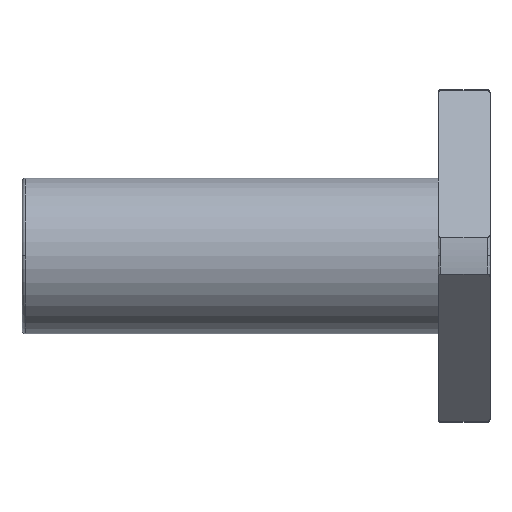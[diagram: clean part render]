
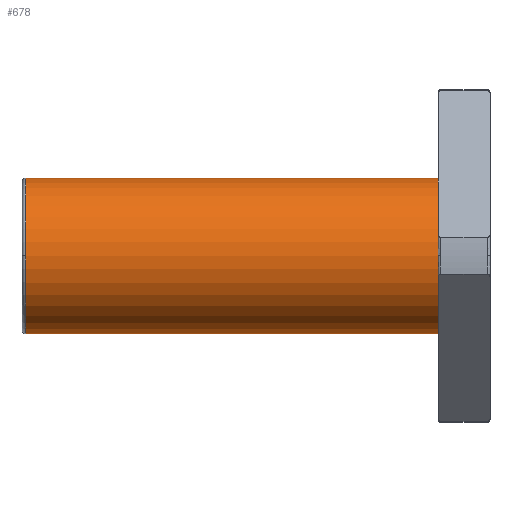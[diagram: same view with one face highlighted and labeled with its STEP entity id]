
A CAD part, top view. The second image highlights one B-rep face of the part: STEP entity #678.
In plain terms, the highlighted cylindrical face has radius 7.5 mm (diameter 15 mm), a partial arc.
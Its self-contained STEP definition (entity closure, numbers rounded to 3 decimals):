
#663 = PLANE('',#664);
#664 = AXIS2_PLACEMENT_3D('',#665,#666,#667);
#665 = CARTESIAN_POINT('',(-5.,11.625,0.));
#666 = DIRECTION('',(-1.,0.,0.));
#667 = DIRECTION('',(0.,-1.,0.));
#678 = ADVANCED_FACE('',(#679),#693,.T.);
#679 = FACE_BOUND('',#680,.T.);
#680 = EDGE_LOOP('',(#681,#716,#745,#774,#797));
#681 = ORIENTED_EDGE('',*,*,#682,.F.);
#682 = EDGE_CURVE('',#683,#685,#687,.T.);
#683 = VERTEX_POINT('',#684);
#684 = CARTESIAN_POINT('',(-44.65,7.5,0.));
#685 = VERTEX_POINT('',#686);
#686 = CARTESIAN_POINT('',(-5.,7.5,0.));
#687 = SURFACE_CURVE('',#688,(#692,#704),.PCURVE_S1.);
#688 = LINE('',#689,#690);
#689 = CARTESIAN_POINT('',(-24.825,7.5,0.));
#690 = VECTOR('',#691,1.);
#691 = DIRECTION('',(1.,0.,0.));
#692 = PCURVE('',#693,#698);
#693 = CYLINDRICAL_SURFACE('',#694,7.5);
#694 = AXIS2_PLACEMENT_3D('',#695,#696,#697);
#695 = CARTESIAN_POINT('',(-24.825,0.,0.));
#696 = DIRECTION('',(1.,0.,0.));
#697 = DIRECTION('',(-0.,1.,0.));
#698 = DEFINITIONAL_REPRESENTATION('',(#699),#703);
#699 = LINE('',#700,#701);
#700 = CARTESIAN_POINT('',(0.,0.));
#701 = VECTOR('',#702,1.);
#702 = DIRECTION('',(0.,1.));
#703 = ( GEOMETRIC_REPRESENTATION_CONTEXT(2) 
PARAMETRIC_REPRESENTATION_CONTEXT() REPRESENTATION_CONTEXT('2D SPACE',''
  ) );
#704 = PCURVE('',#705,#710);
#705 = CYLINDRICAL_SURFACE('',#706,7.5);
#706 = AXIS2_PLACEMENT_3D('',#707,#708,#709);
#707 = CARTESIAN_POINT('',(-24.825,0.,0.));
#708 = DIRECTION('',(1.,0.,0.));
#709 = DIRECTION('',(-0.,1.,0.));
#710 = DEFINITIONAL_REPRESENTATION('',(#711),#715);
#711 = LINE('',#712,#713);
#712 = CARTESIAN_POINT('',(6.283,0.));
#713 = VECTOR('',#714,1.);
#714 = DIRECTION('',(0.,1.));
#715 = ( GEOMETRIC_REPRESENTATION_CONTEXT(2) 
PARAMETRIC_REPRESENTATION_CONTEXT() REPRESENTATION_CONTEXT('2D SPACE',''
  ) );
#716 = ORIENTED_EDGE('',*,*,#717,.T.);
#717 = EDGE_CURVE('',#683,#718,#720,.T.);
#718 = VERTEX_POINT('',#719);
#719 = CARTESIAN_POINT('',(-44.65,0.,7.5));
#720 = SURFACE_CURVE('',#721,(#726,#733),.PCURVE_S1.);
#721 = CIRCLE('',#722,7.5);
#722 = AXIS2_PLACEMENT_3D('',#723,#724,#725);
#723 = CARTESIAN_POINT('',(-44.65,0.,0.));
#724 = DIRECTION('',(1.,0.,0.));
#725 = DIRECTION('',(-0.,1.,0.));
#726 = PCURVE('',#693,#727);
#727 = DEFINITIONAL_REPRESENTATION('',(#728),#732);
#728 = LINE('',#729,#730);
#729 = CARTESIAN_POINT('',(0.,-19.825));
#730 = VECTOR('',#731,1.);
#731 = DIRECTION('',(1.,0.));
#732 = ( GEOMETRIC_REPRESENTATION_CONTEXT(2) 
PARAMETRIC_REPRESENTATION_CONTEXT() REPRESENTATION_CONTEXT('2D SPACE',''
  ) );
#733 = PCURVE('',#734,#739);
#734 = TOROIDAL_SURFACE('',#735,7.15,0.35);
#735 = AXIS2_PLACEMENT_3D('',#736,#737,#738);
#736 = CARTESIAN_POINT('',(-44.65,0.,0.));
#737 = DIRECTION('',(1.,0.,0.));
#738 = DIRECTION('',(0.,0.,-1.));
#739 = DEFINITIONAL_REPRESENTATION('',(#740),#744);
#740 = LINE('',#741,#742);
#741 = CARTESIAN_POINT('',(1.571,6.283));
#742 = VECTOR('',#743,1.);
#743 = DIRECTION('',(1.,0.));
#744 = ( GEOMETRIC_REPRESENTATION_CONTEXT(2) 
PARAMETRIC_REPRESENTATION_CONTEXT() REPRESENTATION_CONTEXT('2D SPACE',''
  ) );
#745 = ORIENTED_EDGE('',*,*,#746,.T.);
#746 = EDGE_CURVE('',#718,#747,#749,.T.);
#747 = VERTEX_POINT('',#748);
#748 = CARTESIAN_POINT('',(-44.65,-7.5,0.));
#749 = SURFACE_CURVE('',#750,(#755,#762),.PCURVE_S1.);
#750 = CIRCLE('',#751,7.5);
#751 = AXIS2_PLACEMENT_3D('',#752,#753,#754);
#752 = CARTESIAN_POINT('',(-44.65,0.,0.));
#753 = DIRECTION('',(1.,0.,0.));
#754 = DIRECTION('',(-0.,1.,0.));
#755 = PCURVE('',#693,#756);
#756 = DEFINITIONAL_REPRESENTATION('',(#757),#761);
#757 = LINE('',#758,#759);
#758 = CARTESIAN_POINT('',(0.,-19.825));
#759 = VECTOR('',#760,1.);
#760 = DIRECTION('',(1.,0.));
#761 = ( GEOMETRIC_REPRESENTATION_CONTEXT(2) 
PARAMETRIC_REPRESENTATION_CONTEXT() REPRESENTATION_CONTEXT('2D SPACE',''
  ) );
#762 = PCURVE('',#763,#768);
#763 = TOROIDAL_SURFACE('',#764,7.15,0.35);
#764 = AXIS2_PLACEMENT_3D('',#765,#766,#767);
#765 = CARTESIAN_POINT('',(-44.65,0.,0.));
#766 = DIRECTION('',(1.,0.,0.));
#767 = DIRECTION('',(0.,0.,-1.));
#768 = DEFINITIONAL_REPRESENTATION('',(#769),#773);
#769 = LINE('',#770,#771);
#770 = CARTESIAN_POINT('',(1.571,6.283));
#771 = VECTOR('',#772,1.);
#772 = DIRECTION('',(1.,0.));
#773 = ( GEOMETRIC_REPRESENTATION_CONTEXT(2) 
PARAMETRIC_REPRESENTATION_CONTEXT() REPRESENTATION_CONTEXT('2D SPACE',''
  ) );
#774 = ORIENTED_EDGE('',*,*,#775,.F.);
#775 = EDGE_CURVE('',#776,#747,#778,.T.);
#776 = VERTEX_POINT('',#777);
#777 = CARTESIAN_POINT('',(-5.,-7.5,0.));
#778 = SURFACE_CURVE('',#779,(#783,#790),.PCURVE_S1.);
#779 = LINE('',#780,#781);
#780 = CARTESIAN_POINT('',(-24.825,-7.5,0.));
#781 = VECTOR('',#782,1.);
#782 = DIRECTION('',(-1.,-0.,-0.));
#783 = PCURVE('',#693,#784);
#784 = DEFINITIONAL_REPRESENTATION('',(#785),#789);
#785 = LINE('',#786,#787);
#786 = CARTESIAN_POINT('',(3.142,0.));
#787 = VECTOR('',#788,1.);
#788 = DIRECTION('',(0.,-1.));
#789 = ( GEOMETRIC_REPRESENTATION_CONTEXT(2) 
PARAMETRIC_REPRESENTATION_CONTEXT() REPRESENTATION_CONTEXT('2D SPACE',''
  ) );
#790 = PCURVE('',#705,#791);
#791 = DEFINITIONAL_REPRESENTATION('',(#792),#796);
#792 = LINE('',#793,#794);
#793 = CARTESIAN_POINT('',(3.142,0.));
#794 = VECTOR('',#795,1.);
#795 = DIRECTION('',(0.,-1.));
#796 = ( GEOMETRIC_REPRESENTATION_CONTEXT(2) 
PARAMETRIC_REPRESENTATION_CONTEXT() REPRESENTATION_CONTEXT('2D SPACE',''
  ) );
#797 = ORIENTED_EDGE('',*,*,#798,.F.);
#798 = EDGE_CURVE('',#685,#776,#799,.T.);
#799 = SURFACE_CURVE('',#800,(#805,#812),.PCURVE_S1.);
#800 = CIRCLE('',#801,7.5);
#801 = AXIS2_PLACEMENT_3D('',#802,#803,#804);
#802 = CARTESIAN_POINT('',(-5.,0.,0.));
#803 = DIRECTION('',(1.,0.,0.));
#804 = DIRECTION('',(-0.,1.,0.));
#805 = PCURVE('',#693,#806);
#806 = DEFINITIONAL_REPRESENTATION('',(#807),#811);
#807 = LINE('',#808,#809);
#808 = CARTESIAN_POINT('',(0.,19.825));
#809 = VECTOR('',#810,1.);
#810 = DIRECTION('',(1.,0.));
#811 = ( GEOMETRIC_REPRESENTATION_CONTEXT(2) 
PARAMETRIC_REPRESENTATION_CONTEXT() REPRESENTATION_CONTEXT('2D SPACE',''
  ) );
#812 = PCURVE('',#663,#813);
#813 = DEFINITIONAL_REPRESENTATION('',(#814),#822);
#814 = ( BOUNDED_CURVE() B_SPLINE_CURVE(2,(#815,#816,#817,#818,#819,#820
,#821),.UNSPECIFIED.,.T.,.F.) B_SPLINE_CURVE_WITH_KNOTS((1,2,2,2,2,1),(
    -2.094,0.,2.094,4.189,6.283,
8.378),.UNSPECIFIED.) CURVE() GEOMETRIC_REPRESENTATION_ITEM() 
RATIONAL_B_SPLINE_CURVE((1.,0.5,1.,0.5,1.,0.5,1.)) REPRESENTATION_ITEM(
  '') );
#815 = CARTESIAN_POINT('',(4.125,0.));
#816 = CARTESIAN_POINT('',(4.125,12.99));
#817 = CARTESIAN_POINT('',(15.375,6.495));
#818 = CARTESIAN_POINT('',(26.625,0.));
#819 = CARTESIAN_POINT('',(15.375,-6.495));
#820 = CARTESIAN_POINT('',(4.125,-12.99));
#821 = CARTESIAN_POINT('',(4.125,0.));
#822 = ( GEOMETRIC_REPRESENTATION_CONTEXT(2) 
PARAMETRIC_REPRESENTATION_CONTEXT() REPRESENTATION_CONTEXT('2D SPACE',''
  ) );
